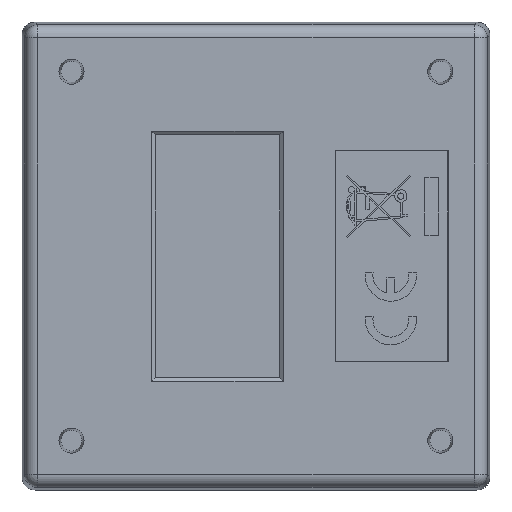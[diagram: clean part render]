
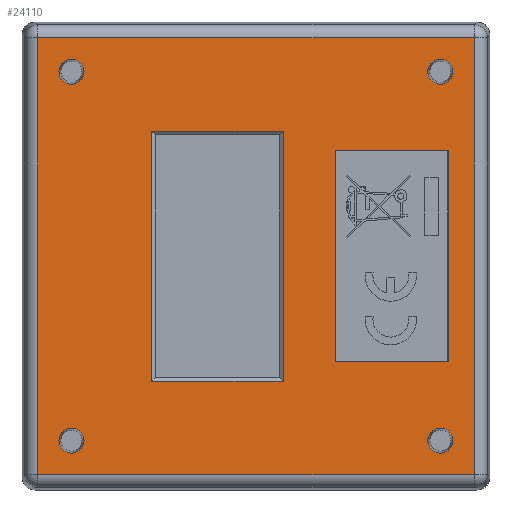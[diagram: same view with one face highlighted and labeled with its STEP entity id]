
A CAD part, front view. The second image highlights one B-rep face of the part: STEP entity #24110.
In plain terms, the highlighted planar face has unit normal (0, -1, 0) as drawn and (0, 0, -1) by its records, which use the part's own axes.
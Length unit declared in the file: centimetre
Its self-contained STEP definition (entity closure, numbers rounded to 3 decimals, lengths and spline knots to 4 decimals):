
#6005=CIRCLE('',#25153,0.1209);
#6006=CIRCLE('',#25154,0.1209);
#6007=CIRCLE('',#25155,0.1209);
#6008=CIRCLE('',#25156,0.1209);
#7023=VERTEX_POINT('',#31405);
#7024=VERTEX_POINT('',#31407);
#7026=VERTEX_POINT('',#31413);
#7028=VERTEX_POINT('',#31419);
#7123=VERTEX_POINT('',#31765);
#7124=VERTEX_POINT('',#31767);
#7126=VERTEX_POINT('',#31773);
#7128=VERTEX_POINT('',#31779);
#7249=VERTEX_POINT('',#32851);
#7250=VERTEX_POINT('',#32853);
#7251=VERTEX_POINT('',#32855);
#7252=VERTEX_POINT('',#32857);
#7253=VERTEX_POINT('',#32859);
#7254=VERTEX_POINT('',#32860);
#7255=VERTEX_POINT('',#32862);
#7256=VERTEX_POINT('',#32864);
#8972=VECTOR('',#26839,1.);
#8975=VECTOR('',#26843,1.);
#8978=VECTOR('',#26847,1.);
#8981=VECTOR('',#26851,1.);
#9111=VECTOR('',#27045,1.);
#9114=VECTOR('',#27049,1.);
#9117=VECTOR('',#27053,1.);
#9120=VECTOR('',#27057,1.);
#9281=VECTOR('',#27290,1.);
#9282=VECTOR('',#27291,1.);
#9283=VECTOR('',#27292,1.);
#9284=VECTOR('',#27293,1.);
#11189=LINE('',#31406,#8972);
#11192=LINE('',#31412,#8975);
#11195=LINE('',#31418,#8978);
#11198=LINE('',#31423,#8981);
#11328=LINE('',#31766,#9111);
#11331=LINE('',#31772,#9114);
#11334=LINE('',#31778,#9117);
#11337=LINE('',#31783,#9120);
#11498=LINE('',#32858,#9281);
#11499=LINE('',#32861,#9282);
#11500=LINE('',#32863,#9283);
#11501=LINE('',#32865,#9284);
#13491=EDGE_CURVE('',#7024,#7023,#11189,.T.);
#13494=EDGE_CURVE('',#7026,#7024,#11192,.T.);
#13497=EDGE_CURVE('',#7028,#7026,#11195,.T.);
#13500=EDGE_CURVE('',#7023,#7028,#11198,.T.);
#13640=EDGE_CURVE('',#7124,#7123,#11328,.F.);
#13643=EDGE_CURVE('',#7126,#7124,#11331,.F.);
#13646=EDGE_CURVE('',#7128,#7126,#11334,.F.);
#13649=EDGE_CURVE('',#7123,#7128,#11337,.F.);
#13830=EDGE_CURVE('',#7249,#7249,#6005,.F.);
#13831=EDGE_CURVE('',#7250,#7250,#6006,.F.);
#13832=EDGE_CURVE('',#7251,#7251,#6007,.F.);
#13833=EDGE_CURVE('',#7252,#7252,#6008,.F.);
#13834=EDGE_CURVE('',#7253,#7254,#11498,.T.);
#13835=EDGE_CURVE('',#7255,#7253,#11499,.T.);
#13836=EDGE_CURVE('',#7256,#7255,#11500,.T.);
#13837=EDGE_CURVE('',#7254,#7256,#11501,.T.);
#17482=ORIENTED_EDGE('',*,*,#13491,.T.);
#17483=ORIENTED_EDGE('',*,*,#13500,.T.);
#17484=ORIENTED_EDGE('',*,*,#13497,.T.);
#17485=ORIENTED_EDGE('',*,*,#13494,.T.);
#17486=ORIENTED_EDGE('',*,*,#13830,.T.);
#17487=ORIENTED_EDGE('',*,*,#13831,.T.);
#17488=ORIENTED_EDGE('',*,*,#13832,.T.);
#17489=ORIENTED_EDGE('',*,*,#13833,.T.);
#17490=ORIENTED_EDGE('',*,*,#13834,.F.);
#17491=ORIENTED_EDGE('',*,*,#13835,.F.);
#17492=ORIENTED_EDGE('',*,*,#13836,.F.);
#17493=ORIENTED_EDGE('',*,*,#13837,.F.);
#17494=ORIENTED_EDGE('',*,*,#13640,.T.);
#17495=ORIENTED_EDGE('',*,*,#13649,.T.);
#17496=ORIENTED_EDGE('',*,*,#13646,.T.);
#17497=ORIENTED_EDGE('',*,*,#13643,.T.);
#21842=EDGE_LOOP('',(#17482,#17483,#17484,#17485));
#21843=EDGE_LOOP('',(#17486));
#21844=EDGE_LOOP('',(#17487));
#21845=EDGE_LOOP('',(#17488));
#21846=EDGE_LOOP('',(#17489));
#21847=EDGE_LOOP('',(#17490,#17491,#17492,#17493));
#21848=EDGE_LOOP('',(#17494,#17495,#17496,#17497));
#22987=FACE_BOUND('',#21842,.T.);
#22988=FACE_BOUND('',#21843,.T.);
#22989=FACE_BOUND('',#21844,.T.);
#22990=FACE_BOUND('',#21845,.T.);
#22991=FACE_BOUND('',#21846,.T.);
#22992=FACE_BOUND('',#21847,.T.);
#22993=FACE_BOUND('',#21848,.T.);
#24110=ADVANCED_FACE('',(#22987,#22988,#22989,#22990,#22991,#22992,#22993),
#39413,.F.);
#25152=AXIS2_PLACEMENT_3D('',#32849,#27281,$);
#25153=AXIS2_PLACEMENT_3D('',#32850,#27282,#27283);
#25154=AXIS2_PLACEMENT_3D('',#32852,#27284,#27285);
#25155=AXIS2_PLACEMENT_3D('',#32854,#27286,#27287);
#25156=AXIS2_PLACEMENT_3D('',#32856,#27288,#27289);
#26839=DIRECTION('',(1.,0.,0.));
#26843=DIRECTION('',(0.,-1.,0.));
#26847=DIRECTION('',(-1.,0.,0.));
#26851=DIRECTION('',(0.,1.,0.));
#27045=DIRECTION('',(-1.,0.,0.));
#27049=DIRECTION('',(0.,1.,0.));
#27053=DIRECTION('',(1.,0.,0.));
#27057=DIRECTION('',(0.,-1.,0.));
#27281=DIRECTION('',(0.,0.,1.));
#27282=DIRECTION('',(0.,0.,-1.));
#27283=DIRECTION('',(-0.121,0.,0.));
#27284=DIRECTION('',(0.,0.,-1.));
#27285=DIRECTION('',(-0.121,0.,0.));
#27286=DIRECTION('',(0.,0.,-1.));
#27287=DIRECTION('',(-0.121,0.,0.));
#27288=DIRECTION('',(0.,0.,-1.));
#27289=DIRECTION('',(-0.121,0.,0.));
#27290=DIRECTION('',(-1.,0.,0.));
#27291=DIRECTION('',(0.,1.,0.));
#27292=DIRECTION('',(1.,0.,0.));
#27293=DIRECTION('',(0.,-1.,0.));
#31405=CARTESIAN_POINT('',(1.2065,-0.2639,-0.0032));
#31406=CARTESIAN_POINT('',(0.6033,-0.2639,-0.0032));
#31407=CARTESIAN_POINT('',(-1.2065,-0.2639,-0.0032));
#31412=CARTESIAN_POINT('',(-1.2065,-0.1319,-0.0032));
#31413=CARTESIAN_POINT('',(-1.2065,1.0061,-0.0032));
#31418=CARTESIAN_POINT('',(-0.6032,1.0061,-0.0032));
#31419=CARTESIAN_POINT('',(1.2065,1.0061,-0.0032));
#31423=CARTESIAN_POINT('',(1.2065,0.5031,-0.0032));
#31765=CARTESIAN_POINT('',(1.0178,-1.8531,-0.0032));
#31766=CARTESIAN_POINT('',(0.,-1.8531,-0.0032));
#31767=CARTESIAN_POINT('',(-1.0178,-1.8531,-0.0032));
#31772=CARTESIAN_POINT('',(-1.0178,-0.3279,-0.0032));
#31773=CARTESIAN_POINT('',(-1.0178,-0.7701,-0.0032));
#31778=CARTESIAN_POINT('',(0.,-0.7701,-0.0032));
#31779=CARTESIAN_POINT('',(1.0178,-0.7701,-0.0032));
#31783=CARTESIAN_POINT('',(1.0178,-0.3279,-0.0032));
#32849=CARTESIAN_POINT('',(0.,0.,-0.0032));
#32850=CARTESIAN_POINT('',(1.778,1.778,-0.0032));
#32851=CARTESIAN_POINT('',(1.8989,1.778,-0.0032));
#32852=CARTESIAN_POINT('',(1.778,-1.778,-0.0032));
#32853=CARTESIAN_POINT('',(1.8989,-1.778,-0.0032));
#32854=CARTESIAN_POINT('',(-1.778,-1.778,-0.0032));
#32855=CARTESIAN_POINT('',(-1.6571,-1.778,-0.0032));
#32856=CARTESIAN_POINT('',(-1.778,1.778,-0.0032));
#32857=CARTESIAN_POINT('',(-1.6571,1.778,-0.0032));
#32858=CARTESIAN_POINT('',(0.,2.1054,-0.0032));
#32859=CARTESIAN_POINT('',(2.1054,2.1054,-0.0032));
#32860=CARTESIAN_POINT('',(-2.1054,2.1054,-0.0032));
#32861=CARTESIAN_POINT('',(2.1054,0.,-0.0032));
#32862=CARTESIAN_POINT('',(2.1054,-2.1054,-0.0032));
#32863=CARTESIAN_POINT('',(0.,-2.1054,-0.0032));
#32864=CARTESIAN_POINT('',(-2.1054,-2.1054,-0.0032));
#32865=CARTESIAN_POINT('',(-2.1054,0.,-0.0032));
#39413=PLANE('',#25152);
